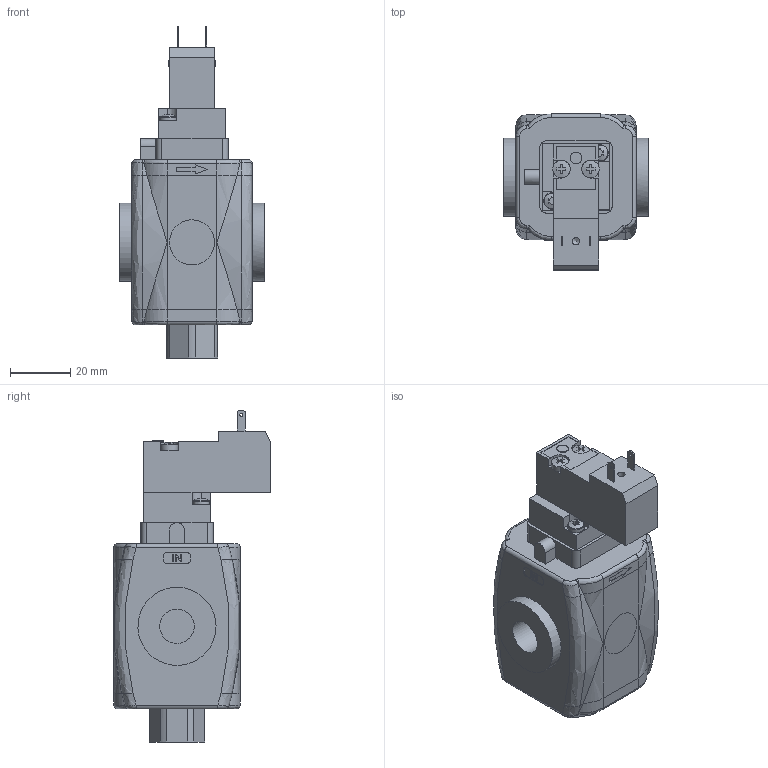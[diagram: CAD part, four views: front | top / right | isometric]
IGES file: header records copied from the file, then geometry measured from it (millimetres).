
Global section: file name: No Iges File Name specified; native system: Autodesk Inventor 2013; preprocessor: AutoDesk Inventor Iges Exporter R2013; author: valotma1; date: 20130610.105826; units: millimetre
Bounding box: 48 x 52 x 110.5 mm (x, y, z)
Volume: 113706.7 mm3; surface area: 21381.7 mm2
Topology: 6 solids, 6 shells, 405 faces, 972 edges, 611 vertices
Faces by surface type: bspline 405
